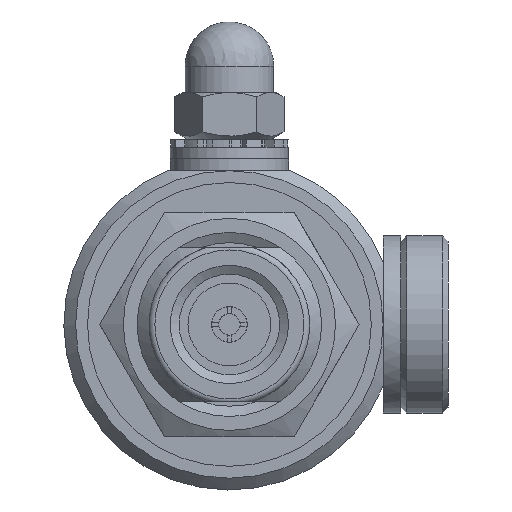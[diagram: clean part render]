
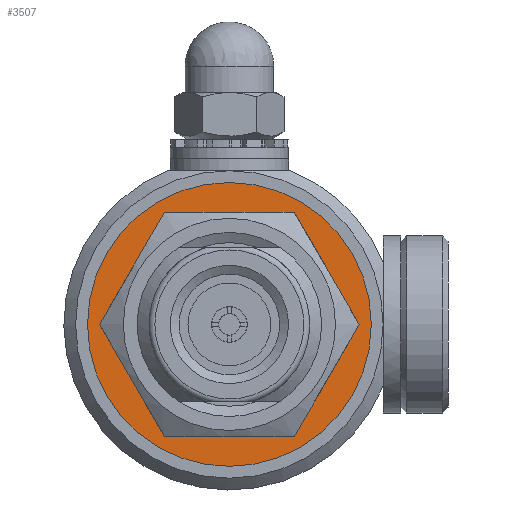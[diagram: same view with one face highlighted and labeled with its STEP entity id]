
A CAD part, left-side view. The second image highlights one B-rep face of the part: STEP entity #3507.
In plain terms, the highlighted planar face has unit normal (-1, 0, 0) as drawn and (0, 0, -1) by its records, which use the part's own axes.
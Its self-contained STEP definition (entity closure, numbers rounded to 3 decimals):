
#130=FACE_BOUND('',#1181,.T.);
#953=FACE_OUTER_BOUND('',#1180,.T.);
#1180=EDGE_LOOP('',(#3209));
#1181=EDGE_LOOP('',(#3210));
#1392=CIRCLE('',#4065,9.);
#1395=CIRCLE('',#4069,12.);
#1715=VERTEX_POINT('',#6335);
#1718=VERTEX_POINT('',#6343);
#2211=EDGE_CURVE('',#1715,#1715,#1392,.T.);
#2216=EDGE_CURVE('',#1718,#1718,#1395,.T.);
#3209=ORIENTED_EDGE('',*,*,#2216,.T.);
#3210=ORIENTED_EDGE('',*,*,#2211,.T.);
#3303=PLANE('',#4070);
#3507=ADVANCED_FACE('',(#953,#130),#3303,.F.);
#4065=AXIS2_PLACEMENT_3D('',#6336,#5150,#5151);
#4069=AXIS2_PLACEMENT_3D('',#6345,#5160,#5161);
#4070=AXIS2_PLACEMENT_3D('',#6346,#5162,#5163);
#5150=DIRECTION('center_axis',(0.,0.,1.));
#5151=DIRECTION('ref_axis',(-1.,0.,0.));
#5160=DIRECTION('center_axis',(0.,0.,-1.));
#5161=DIRECTION('ref_axis',(-1.,0.,0.));
#5162=DIRECTION('center_axis',(0.,0.,1.));
#5163=DIRECTION('ref_axis',(1.,0.,0.));
#6335=CARTESIAN_POINT('',(9.,0.,0.));
#6336=CARTESIAN_POINT('Origin',(0.,0.,0.));
#6343=CARTESIAN_POINT('',(12.,0.,0.));
#6345=CARTESIAN_POINT('Origin',(0.,0.,0.));
#6346=CARTESIAN_POINT('Origin',(0.,0.,
0.));
